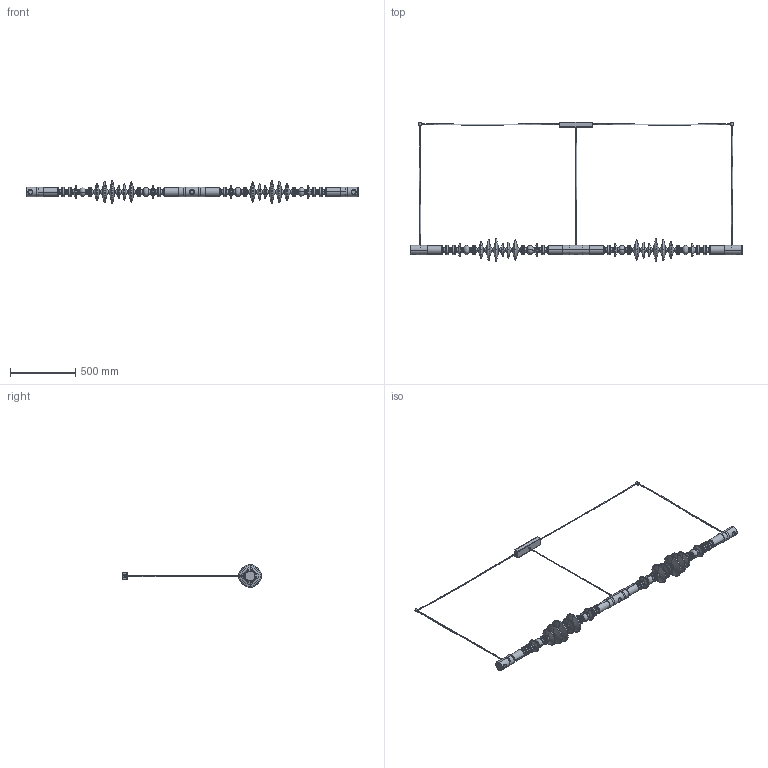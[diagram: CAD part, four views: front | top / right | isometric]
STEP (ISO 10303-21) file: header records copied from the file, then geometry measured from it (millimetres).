
FILE_DESCRIPTION (( 'STEP AP203' ), '1' );
FILE_NAME ('Filamento Horizontal Double, Shape 1+1.STEP', '2026-04-30T09:20:38', ( '' ), ( '' ), 'SwSTEP 2.0', 'SolidWorks 2025', '' );
FILE_SCHEMA (( 'CONFIG_CONTROL_DESIGN' ));
Length unit declared in the file: millimetre
Products named in the file (19): ATC-X21-S502-R00; ATC-X21-S590-R00; Viti a Testa Bombata e Cava Esagonale ISO-7380_VITE M3X12 TBCE ISO-7380 ; Grano con Cava Esagonale UNI-5923_GRANO M4X6 ESTREMITA'' PIANA UNI-5923; ATC-X21-S411-R00 - Architetti_Default<A macchina>; Nipplo Steab 5475xx_NIPPLO M10x1 H.7 TRASP.; Filamento Horizontal Double, Shape 1+1; ATA-X21-S400-R00 - Architetti_Sosp. Doppia; Vite a Testa Svasata Piana Cava Esagonale UNI-5933_VITE M3X8 TSPCE UNI-5933; Lamp. GU10 Ø35 - PAR11 35 Osram_LAMPADA GU10 50W 220V; ATC-X21-S400-R02 - Architetti; ATC-X21-S591-R00; ATC-X21-S414-R00 - Architetti; ATA-X21-S500-R00 - Architetti; ATC-X21-S500-R00 - Architetti; ATC-X21-S407-R01 - Architetti; ATA-X21-S402-R00 - Architetti; ATC-X21-S406-R00; ATA-X21-S401-R00 - Architetti_Sosp. Doppia
Assembly tree (42 placements, depth 4):
  Filamento Horizontal Double, Shape 1+1
    ATA-X21-S401-R00 - Architetti_Sosp. Doppia
      Lamp. GU10 Ø35 - PAR11 35 Osram_LAMPADA GU10 50W 220V  x4
      Vite a Testa Svasata Piana Cava Esagonale UNI-5933_VITE M3X8 TSPCE UNI-5933  x4
      Nipplo Steab 5475xx_NIPPLO M10x1 H.7 TRASP.  x2
      Grano con Cava Esagonale UNI-5923_GRANO M4X6 ESTREMITA'' PIANA UNI-5923  x2
      ATA-X21-S400-R00 - Architetti_Sosp. Doppia
        Viti a Testa Bombata e Cava Esagonale ISO-7380_VITE M3X12 TBCE ISO-7380   x2
        Nipplo Steab 5475xx_NIPPLO M10x1 H.7 TRASP.  x3
        ATC-X21-S414-R00 - Architetti
      ATC-X21-S407-R01 - Architetti  x2
      ATC-X21-S590-R00  x2
      ATC-X21-S400-R02 - Architetti  x2
    ATA-X21-S402-R00 - Architetti  x2
      ATC-X21-S411-R00 - Architetti_Default<A macchina>
      ATC-X21-S406-R00
    ATA-X21-S500-R00 - Architetti
      Lamp. GU10 Ø35 - PAR11 35 Osram_LAMPADA GU10 50W 220V  x3
      Vite a Testa Svasata Piana Cava Esagonale UNI-5933_VITE M3X8 TSPCE UNI-5933  x2
      Grano con Cava Esagonale UNI-5923_GRANO M4X6 ESTREMITA'' PIANA UNI-5923  x2
      ATC-X21-S500-R00 - Architetti
      ATC-X21-S502-R00
      ATC-X21-S591-R00
Bounding box: 2550 x 1068 x 177 mm (x, y, z)
Volume: 3178667.9 mm3; surface area: 2001311.2 mm2
Topology: 45 solids, 45 shells, 1492 faces, 3102 edges, 1760 vertices
Faces by surface type: torus 480, cylinder 369, cone 334, plane 282, bspline 27
Entity records: 27111 total; most frequent: CARTESIAN_POINT 9241, DIRECTION 3616, ORIENTED_EDGE 2906, AXIS2_PLACEMENT_3D 1570, EDGE_CURVE 1453, CIRCLE 853, VERTEX_POINT 823, EDGE_LOOP 756
